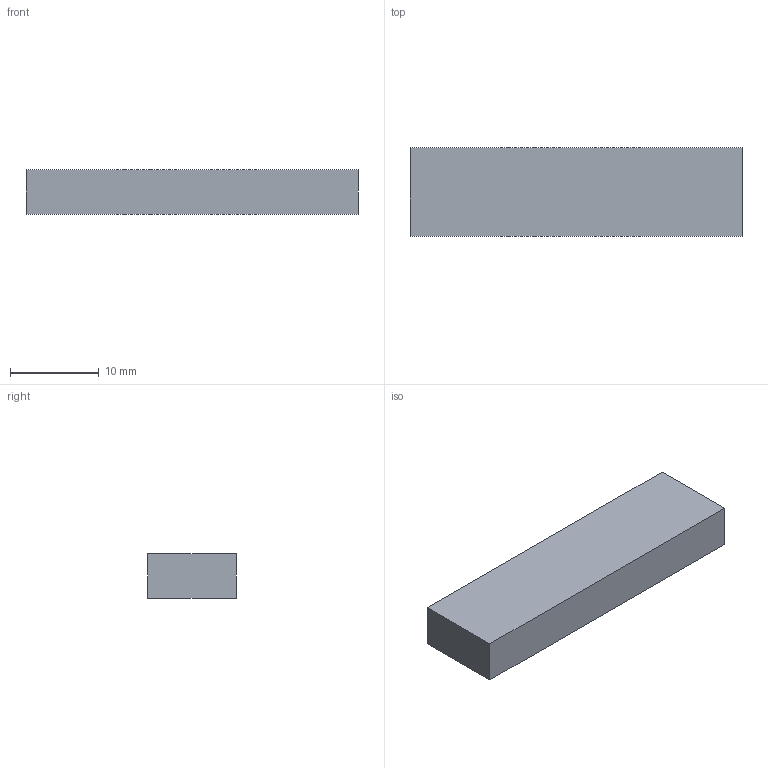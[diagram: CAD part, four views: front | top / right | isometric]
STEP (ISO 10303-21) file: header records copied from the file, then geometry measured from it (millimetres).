
FILE_DESCRIPTION (( 'STEP AP214' ), '1' );
FILE_NAME ('55.4-ND-37,5-10-5.step', '2022-09-29T08:21:44', ( '' ), ( '' ), 'SwSTEP 2.0', 'SolidWorks 2022', '' );
FILE_SCHEMA (( 'AUTOMOTIVE_DESIGN' ));
Length unit declared in the file: millimetre
Products named in the file (1): 55.4-ND-37,5-10-5
Bounding box: 37.5 x 10 x 5 mm (x, y, z)
Volume: 1875 mm3; surface area: 1225 mm2
Topology: 1 solids, 1 shells, 6 faces, 12 edges, 8 vertices
Faces by surface type: plane 6
Entity records: 190 total; most frequent: CARTESIAN_POINT 27, DIRECTION 26, ORIENTED_EDGE 24, LINE 12, EDGE_CURVE 12, VECTOR 12, VERTEX_POINT 8, AXIS2_PLACEMENT_3D 7
